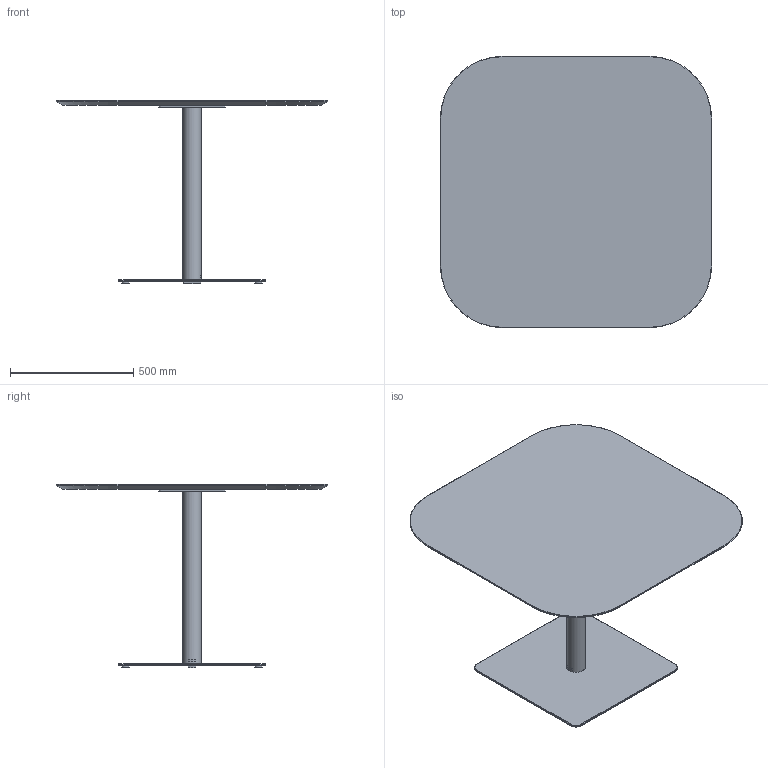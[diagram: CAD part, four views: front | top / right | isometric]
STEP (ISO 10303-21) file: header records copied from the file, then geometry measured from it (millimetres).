
FILE_DESCRIPTION( ('This file contains a STEP AP42 implementation' ,'as created by ZW3D STEP Interface translator.') ,'2;1' );
FILE_NAME( 'Henri - B_Carré - F2 - M5 - 1100 x 1100 x 750.stp' ,'24 912.17 153', (''), ('ZWCAD Software Co.'), 'Version 1.0', 'ZW3D to STEP translator', '' );
FILE_SCHEMA(('AUTOMOTIVE_DESIGN { 1 0 10303 214 1 1 1 1 }'));
Length unit declared in the file: millimetre
Products named in the file (14): 0; PIED BISTROT PARAMETRIQUE_; COLONNE ACIER Ø76 V.02_; TUB-D076-02_; PLA-R76B-01_; CROIX ACIER 370 V.02_; CRX-X370-02_; SOCLE ACIER L 600x600 V.02_; SCL-R600-02_; PLA-R30A-01_; PLA-R30A-01; WUERTH 0276063020 Euro-screw 6.3x2 Verzinkt_; PLATEAU BISTROT PARAMETRIQUE_; insert_m6_13_
Assembly tree (22 placements, depth 3):
  0
  PIED BISTROT PARAMETRIQUE_
    COLONNE ACIER Ø76 V.02_
      TUB-D076-02_
      PLA-R76B-01_  x2
    CROIX ACIER 370 V.02_
      CRX-X370-02_
    SOCLE ACIER L 600x600 V.02_
      SCL-R600-02_
      PLA-R30A-01_
      PLA-R30A-01  x3
    WUERTH 0276063020 Euro-screw 6.3x2 Verzinkt_
    PLATEAU BISTROT PARAMETRIQUE_
      insert_m6_13_  x8
Bounding box: 1100 x 1100 x 744 mm (x, y, z)
Volume: 26170624.1 mm3; surface area: 3601096.7 mm2
Topology: 19 solids, 19 shells, 537 faces, 1310 edges, 822 vertices
Faces by surface type: plane 262, bspline 121, cylinder 98, cone 55, torus 1
Full cylindrical faces by diameter (mm): 4.88 x1, 6 x8, 6.3 x1, 8 x45, 12 x2, 14 x2, 30 x4, 72 x1, 76 x1
Entity records: 12310 total; most frequent: CARTESIAN_POINT 3396, ORIENTED_EDGE 1624, DIRECTION 1519, EDGE_CURVE 812, VERTEX_POINT 518, VECTOR 513, LINE 513, AXIS2_PLACEMENT_3D 503
